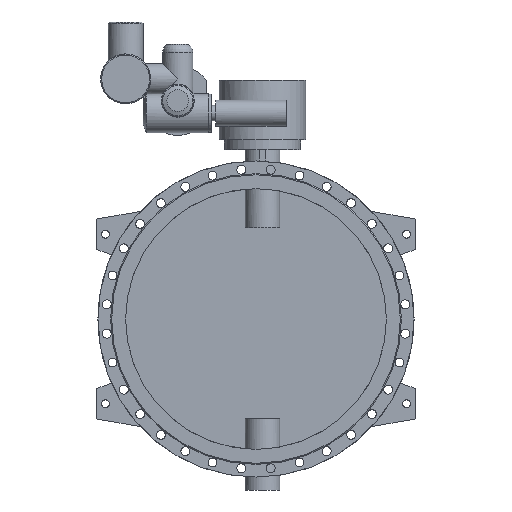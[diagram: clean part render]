
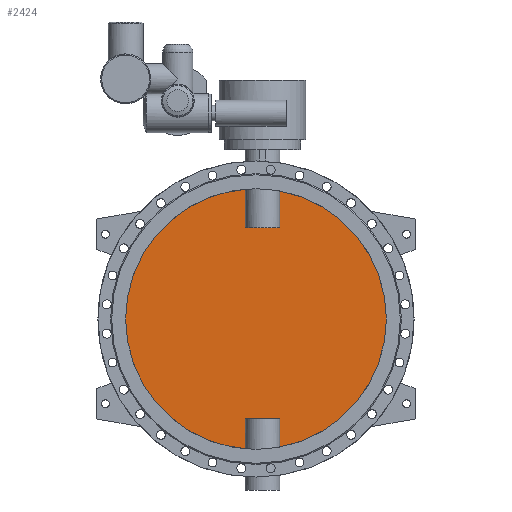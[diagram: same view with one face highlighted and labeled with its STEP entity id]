
A CAD part, front view. The second image highlights one B-rep face of the part: STEP entity #2424.
In plain terms, the highlighted planar face has unit normal (0, -1, 0).
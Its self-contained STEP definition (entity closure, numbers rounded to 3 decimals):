
#2424=ADVANCED_FACE('',(#4953),#4955,.F.);
#4953=FACE_BOUND('',#4954,.T.);
#4954=EDGE_LOOP('',(#6023,#6024,#6025,#6026,#6027,#6028,#6029,#6030));
#4955=PLANE('',#4956);
#4956=AXIS2_PLACEMENT_3D('',#4957,#4958,#4959);
#4957=CARTESIAN_POINT('',(0.,-5.,0.));
#4958=DIRECTION('',(0.,1.,0.));
#4959=DIRECTION('',(1.,0.,0.));
#6023=ORIENTED_EDGE('',*,*,#6559,.T.);
#6024=ORIENTED_EDGE('',*,*,#6564,.T.);
#6025=ORIENTED_EDGE('',*,*,#6565,.T.);
#6026=ORIENTED_EDGE('',*,*,#6566,.T.);
#6027=ORIENTED_EDGE('',*,*,#6561,.T.);
#6028=ORIENTED_EDGE('',*,*,#6567,.T.);
#6029=ORIENTED_EDGE('',*,*,#6568,.T.);
#6030=ORIENTED_EDGE('',*,*,#6569,.T.);
#6559=EDGE_CURVE('',#7513,#7514,#7515,.F.);
#6561=EDGE_CURVE('',#7518,#7516,#7519,.F.);
#6564=EDGE_CURVE('',#7514,#7523,#7524,.T.);
#6565=EDGE_CURVE('',#7523,#7525,#7526,.F.);
#6566=EDGE_CURVE('',#7525,#7518,#7527,.F.);
#6567=EDGE_CURVE('',#7516,#7528,#7529,.F.);
#6568=EDGE_CURVE('',#7528,#7530,#7531,.F.);
#6569=EDGE_CURVE('',#7530,#7513,#7532,.T.);
#7513=VERTEX_POINT('',#11834);
#7514=VERTEX_POINT('',#11835);
#7515=CIRCLE('',#11836,600.);
#7516=VERTEX_POINT('',#11840);
#7518=VERTEX_POINT('',#11934);
#7519=CIRCLE('',#11935,600.);
#7523=VERTEX_POINT('',#12038);
#7524=LINE('',#12039,#12040);
#7525=VERTEX_POINT('',#12042);
#7526=LINE('',#12043,#12044);
#7527=LINE('',#12046,#12047);
#7528=VERTEX_POINT('',#12049);
#7529=LINE('',#12050,#12051);
#7530=VERTEX_POINT('',#12053);
#7531=LINE('',#12054,#12055);
#7532=LINE('',#12057,#12058);
#11834=CARTESIAN_POINT('',(109.844,-5.,-589.86));
#11835=CARTESIAN_POINT('',(109.844,-5.,589.86));
#11836=AXIS2_PLACEMENT_3D('',#11837,#11838,#11839);
#11837=CARTESIAN_POINT('',(0.,-5.,0.));
#11838=DIRECTION('',(0.,1.,0.));
#11839=DIRECTION('',(0.183,0.,0.983));
#11840=CARTESIAN_POINT('',(-49.844,-5.,-597.926));
#11934=CARTESIAN_POINT('',(-49.844,-5.,597.926));
#11935=AXIS2_PLACEMENT_3D('',#11936,#11937,#11938);
#11936=CARTESIAN_POINT('',(0.,-5.,0.));
#11937=DIRECTION('',(0.,1.,0.));
#11938=DIRECTION('',(-0.083,0.,-0.997));
#12038=CARTESIAN_POINT('',(109.844,-5.,420.));
#12039=CARTESIAN_POINT('',(109.844,-5.,589.86));
#12040=VECTOR('',#12041,1.);
#12041=DIRECTION('',(0.,0.,-1.));
#12042=CARTESIAN_POINT('',(-49.844,-5.,420.));
#12043=CARTESIAN_POINT('',(-49.844,-5.,420.));
#12044=VECTOR('',#12045,1.);
#12045=DIRECTION('',(1.,0.,0.));
#12046=CARTESIAN_POINT('',(-49.844,-5.,597.926));
#12047=VECTOR('',#12048,1.);
#12048=DIRECTION('',(0.,0.,-1.));
#12049=CARTESIAN_POINT('',(-49.844,-5.,-460.));
#12050=CARTESIAN_POINT('',(-49.844,-5.,-460.));
#12051=VECTOR('',#12052,1.);
#12052=DIRECTION('',(0.,0.,-1.));
#12053=CARTESIAN_POINT('',(109.844,-5.,-460.));
#12054=CARTESIAN_POINT('',(109.844,-5.,-460.));
#12055=VECTOR('',#12056,1.);
#12056=DIRECTION('',(-1.,0.,0.));
#12057=CARTESIAN_POINT('',(109.844,-5.,-460.));
#12058=VECTOR('',#12059,1.);
#12059=DIRECTION('',(0.,0.,-1.));
